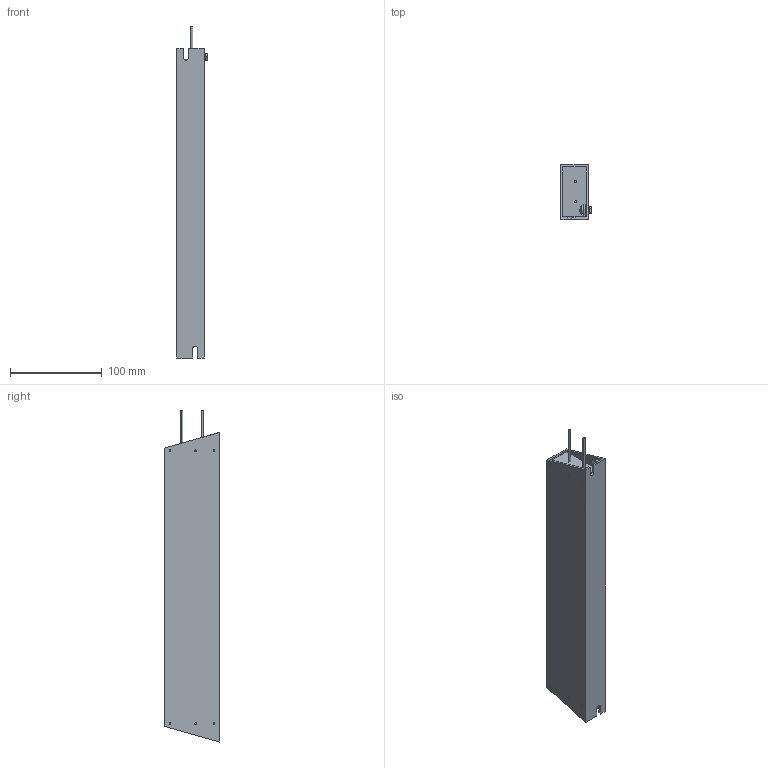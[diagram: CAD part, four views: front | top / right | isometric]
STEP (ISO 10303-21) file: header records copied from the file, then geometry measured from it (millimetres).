
FILE_DESCRIPTION (( 'STEP AP214' ), '1' );
FILE_NAME ('02 31637 2.STEP', '2024-08-29T08:07:59', ( '' ), ( '' ), 'SwSTEP 2.0', 'SolidWorks 2019', '' );
FILE_SCHEMA (( 'AUTOMOTIVE_DESIGN' ));
Length unit declared in the file: millimetre
Products named in the file (1): 02 31637 2
Bounding box: 33.2 x 60 x 361.45 mm (x, y, z)
Volume: 137961.9 mm3; surface area: 116705.8 mm2
Topology: 7 solids, 7 shells, 199 faces, 434 edges, 277 vertices
Faces by surface type: plane 87, cylinder 84, cone 14, torus 12, sphere 2
Entity records: 7831 total; most frequent: CARTESIAN_POINT 1087, DIRECTION 976, ORIENTED_EDGE 868, EDGE_CURVE 434, AXIS2_PLACEMENT_3D 382, VERTEX_POINT 277, EDGE_LOOP 235, VECTOR 212
